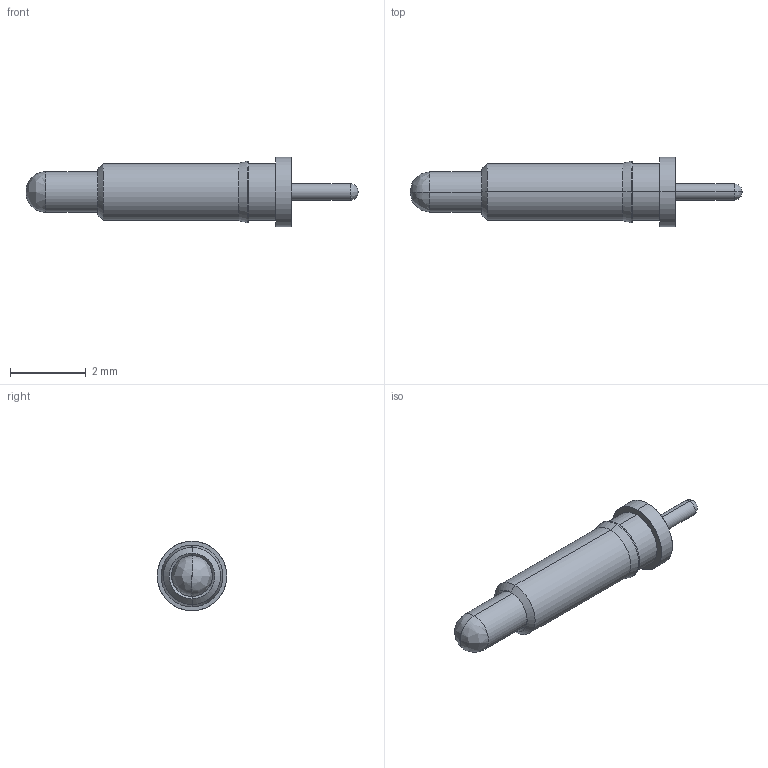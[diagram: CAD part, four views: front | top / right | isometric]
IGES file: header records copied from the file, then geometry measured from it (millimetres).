
Start section: SolidWorks IGES file using analytic representation for surfaces
Global section: file name: O:\OB\102000_1\BIP-13.IGS; native system: SolidWorks 2024; preprocessor: SolidWorks 2024; author: kgolden; date: 251125.121253; units: inch
Bounding box: 8.74 x 1.83 x 1.83 mm (x, y, z)
Surface area: 85.2 mm2 (no closed solid volume)
Topology: 0 solids, 0 shells, 61 faces, 422 edges, 418 vertices
Faces by surface type: revolution 40, bspline 21
